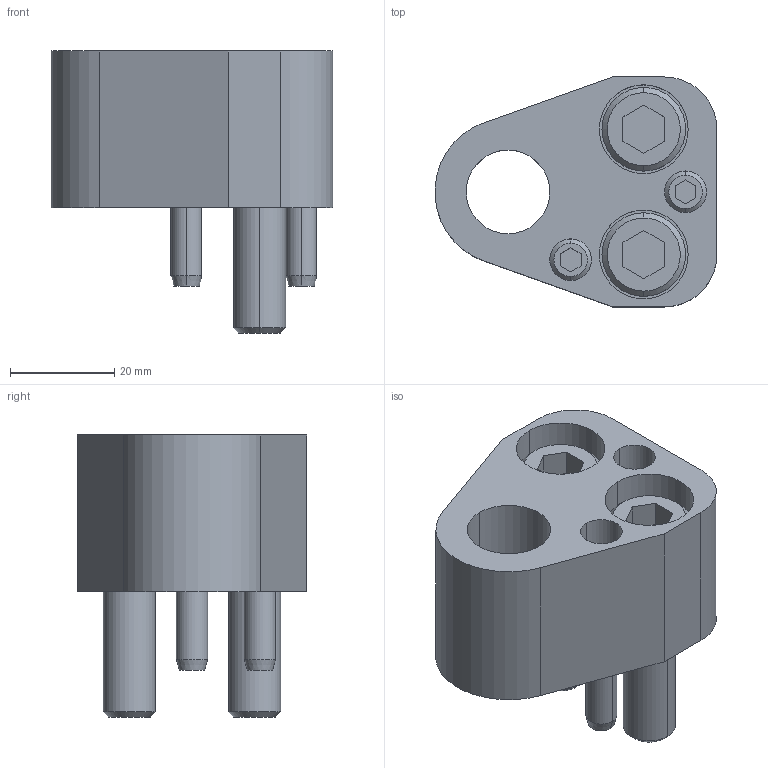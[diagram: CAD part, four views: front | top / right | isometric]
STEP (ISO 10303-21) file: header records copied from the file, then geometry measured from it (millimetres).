
FILE_DESCRIPTION(/* description */ (''),/* implementation_level */ '2;1');
FILE_NAME(/* name */ '3d_apar16_02868_r00.stp',/* time_stamp */ '2011-01-10T14:17:45+09:00',/* author */ ('MISUMI'),/* organization */ (''),/* preprocessor_version */ 'ST-DEVELOPER v11',/* originating_system */ 'UGS - NX 5.0',/* authorisation */ '');
FILE_SCHEMA (('CONFIG_CONTROL_DESIGN'));
Length unit declared in the file: millimetre
Products named in the file (1): 3d_apar16_02868_r00
Bounding box: 53.95 x 44 x 54 mm (x, y, z)
Volume: 49100.5 mm3; surface area: 19894.9 mm2
Topology: 7 solids, 7 shells, 135 faces, 292 edges, 186 vertices
Faces by surface type: plane 60, cylinder 49, cone 26
Entity records: 3816 total; most frequent: DIRECTION 684, CARTESIAN_POINT 662, ORIENTED_EDGE 584, EDGE_CURVE 292, AXIS2_PLACEMENT_3D 260, VERTEX_POINT 186, LINE 164, VECTOR 164
